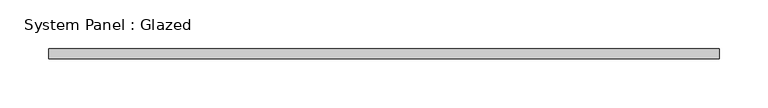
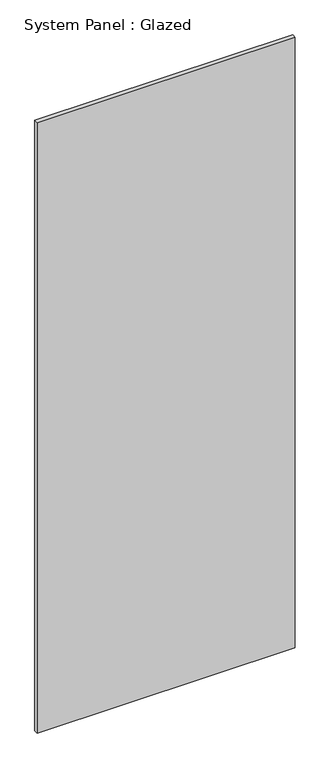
"""IFC4 building model written with IfcOpenShell, lengths in millimetres: plate geometry, System Panel : Glazed."""

from ifc_helpers import new_model, si_unit, origin, origin_with_axes, place, context, project, spatial, polyline, outline, extrude, source, transform, mapped, element, save


def system_panel_glazed_f3d5071e(model_context):
    return source(origin(), model_context, "Body", "SweptSolid", [
        extrude(outline(polyline([(342.5369191, -5.0), (-342.5369191, -5.0), (-342.5369191, 5.0), (342.5369191, 5.0), (342.5369191, -5.0)])), origin_with_axes(), (0.0, 0.0, 1.0), 1712.84856),
    ])


if __name__ == "__main__":
    model = new_model("IFC4")
    model_context = context("Model", 3, world=origin())
    ifc_project = project(units=[si_unit("LENGTHUNIT", "METRE", prefix="MILLI")], contexts=[model_context])
    site = spatial("IfcSite", under=ifc_project)
    building = spatial("IfcBuilding", under=site)
    placement = place(None, origin())
    system_panel_glazed_shape = system_panel_glazed_f3d5071e(model_context)
    element("IfcPlate", 1, ObjectType="System Panel : Glazed", at=placement, inside=building, context=model_context, shape_type="MappedRepresentation", body=[
        mapped(system_panel_glazed_shape, transform((0.0, 0.0, 0.0), x_axis=(1.0, 0.0, 0.0), y_axis=(0.0, 1.0, 0.0), z_axis=(0.0, 0.0, 1.0))),
    ])
    save(model, "model.ifc")
